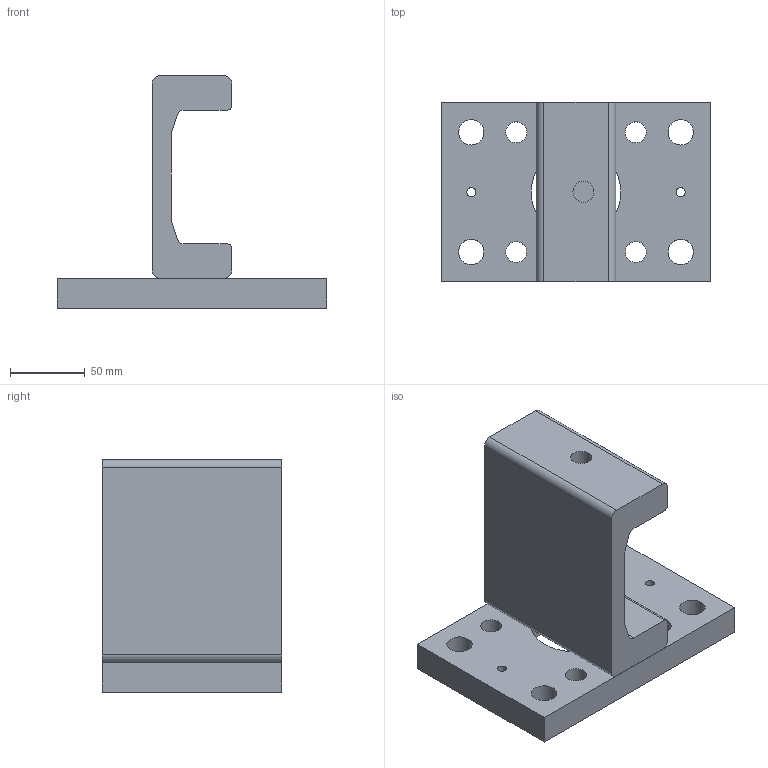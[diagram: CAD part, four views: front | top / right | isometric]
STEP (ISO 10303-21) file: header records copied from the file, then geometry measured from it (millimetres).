
FILE_DESCRIPTION(/* description */ (''),/* implementation_level */ '2;1');
FILE_NAME(/* name */ '5.1190SP.step',/* time_stamp */ '2023-07-14T11:50:38+02:00',/* author */ (''),/* organization */ (''),/* preprocessor_version */ 'ST-DEVELOPER v19.2',/* originating_system */ 'Autodesk Translation Framework v12.6.0.85',/* authorisation */ '');
FILE_SCHEMA (('AUTOMOTIVE_DESIGN { 1 0 10303 214 3 1 1 }'));
Length unit declared in the file: millimetre
Products named in the file (2): 5.1190/SP; 2811x120
Assembly tree (1 placements, depth 2):
  5.1190/SP
    2811x120
Bounding box: 180 x 120 x 155.4 mm (x, y, z)
Volume: 775599.6 mm3; surface area: 118974.2 mm2
Topology: 2 solids, 2 shells, 38 faces, 102 edges, 68 vertices
Faces by surface type: cylinder 20, plane 18
Full cylindrical faces by diameter (mm): 6 x2, 14.023 x5, 17 x4, 60 x1
Entity records: 1308 total; most frequent: DIRECTION 224, CARTESIAN_POINT 211, ORIENTED_EDGE 204, EDGE_CURVE 102, AXIS2_PLACEMENT_3D 81, VERTEX_POINT 68, EDGE_LOOP 62, LINE 62
